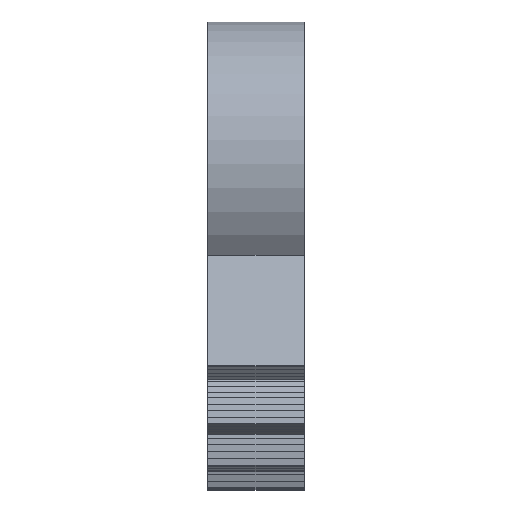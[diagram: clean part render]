
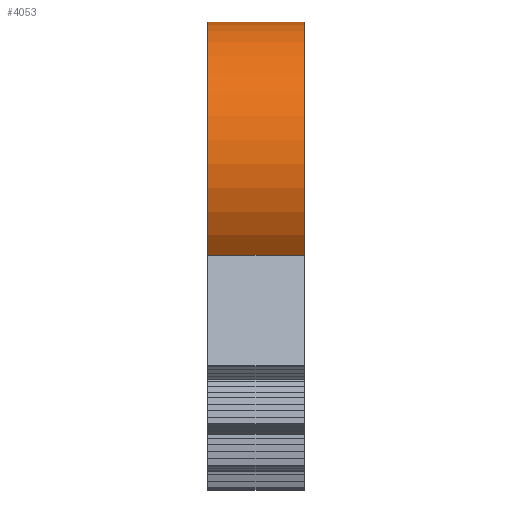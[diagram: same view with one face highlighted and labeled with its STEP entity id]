
A CAD part, top view. The second image highlights one B-rep face of the part: STEP entity #4053.
In plain terms, the highlighted cylindrical face has radius 12 mm (diameter 24 mm), a partial arc.
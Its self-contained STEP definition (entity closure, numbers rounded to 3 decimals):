
#22 = VERTEX_POINT('',#23);
#23 = CARTESIAN_POINT('',(-47.,-7.388,9.456));
#32 = PLANE('',#33);
#33 = AXIS2_PLACEMENT_3D('',#34,#35,#36);
#34 = CARTESIAN_POINT('',(-47.,0.,0.)
  );
#35 = DIRECTION('',(1.,0.,0.));
#36 = DIRECTION('',(0.,1.,0.));
#44 = PLANE('',#45);
#45 = AXIS2_PLACEMENT_3D('',#46,#47,#48);
#46 = CARTESIAN_POINT('',(-47.,0.,0.));
#47 = DIRECTION('',(0.,-0.788,-0.616));
#48 = DIRECTION('',(0.,-0.616,0.788));
#3893 = VERTEX_POINT('',#3894);
#3894 = CARTESIAN_POINT('',(-47.,-10.786,-5.26));
#3908 = PLANE('',#3909);
#3909 = AXIS2_PLACEMENT_3D('',#3910,#3911,#3912);
#3910 = CARTESIAN_POINT('',(-47.,-35.952,-17.535));
#3911 = DIRECTION('',(0.,-0.438,0.899));
#3912 = DIRECTION('',(0.,0.899,0.438));
#3920 = EDGE_CURVE('',#3893,#22,#3921,.T.);
#3921 = SURFACE_CURVE('',#3922,(#3927,#3934),.PCURVE_S1.);
#3922 = CIRCLE('',#3923,12.);
#3923 = AXIS2_PLACEMENT_3D('',#3924,#3925,#3926);
#3924 = CARTESIAN_POINT('',(-47.,0.,0.));
#3925 = DIRECTION('',(1.,0.,0.));
#3926 = DIRECTION('',(0.,-0.899,-0.438));
#3927 = PCURVE('',#32,#3928);
#3928 = DEFINITIONAL_REPRESENTATION('',(#3929),#3933);
#3929 = CIRCLE('',#3930,12.);
#3930 = AXIS2_PLACEMENT_2D('',#3931,#3932);
#3931 = CARTESIAN_POINT('',(0.,0.));
#3932 = DIRECTION('',(-0.899,-0.438));
#3933 = ( GEOMETRIC_REPRESENTATION_CONTEXT(2) 
PARAMETRIC_REPRESENTATION_CONTEXT() REPRESENTATION_CONTEXT('2D SPACE',''
  ) );
#3934 = PCURVE('',#3935,#3940);
#3935 = CYLINDRICAL_SURFACE('',#3936,12.);
#3936 = AXIS2_PLACEMENT_3D('',#3937,#3938,#3939);
#3937 = CARTESIAN_POINT('',(-47.,0.,0.));
#3938 = DIRECTION('',(-1.,-0.,-0.));
#3939 = DIRECTION('',(0.,1.,0.));
#3940 = DEFINITIONAL_REPRESENTATION('',(#3941),#3945);
#3941 = LINE('',#3942,#3943);
#3942 = CARTESIAN_POINT('',(-3.595,0.));
#3943 = VECTOR('',#3944,1.);
#3944 = DIRECTION('',(-1.,0.));
#3945 = ( GEOMETRIC_REPRESENTATION_CONTEXT(2) 
PARAMETRIC_REPRESENTATION_CONTEXT() REPRESENTATION_CONTEXT('2D SPACE',''
  ) );
#3986 = EDGE_CURVE('',#3987,#22,#3989,.T.);
#3987 = VERTEX_POINT('',#3988);
#3988 = CARTESIAN_POINT('',(-39.,-7.388,9.456));
#3989 = SURFACE_CURVE('',#3990,(#3994,#4000),.PCURVE_S1.);
#3990 = LINE('',#3991,#3992);
#3991 = CARTESIAN_POINT('',(-47.,-7.388,9.456));
#3992 = VECTOR('',#3993,1.);
#3993 = DIRECTION('',(-1.,-0.,-0.));
#3994 = PCURVE('',#44,#3995);
#3995 = DEFINITIONAL_REPRESENTATION('',(#3996),#3999);
#3996 = B_SPLINE_CURVE_WITH_KNOTS('',1,(#3997,#3998),.UNSPECIFIED.,.F.,
  .F.,(2,2),(-8.,0.),.PIECEWISE_BEZIER_KNOTS.);
#3997 = CARTESIAN_POINT('',(12.,-8.));
#3998 = CARTESIAN_POINT('',(12.,0.));
#3999 = ( GEOMETRIC_REPRESENTATION_CONTEXT(2) 
PARAMETRIC_REPRESENTATION_CONTEXT() REPRESENTATION_CONTEXT('2D SPACE',''
  ) );
#4000 = PCURVE('',#3935,#4001);
#4001 = DEFINITIONAL_REPRESENTATION('',(#4002),#4005);
#4002 = B_SPLINE_CURVE_WITH_KNOTS('',1,(#4003,#4004),.UNSPECIFIED.,.F.,
  .F.,(2,2),(-8.,-0.),.PIECEWISE_BEZIER_KNOTS.);
#4003 = CARTESIAN_POINT('',(-8.517,-8.));
#4004 = CARTESIAN_POINT('',(-8.517,0.));
#4005 = ( GEOMETRIC_REPRESENTATION_CONTEXT(2) 
PARAMETRIC_REPRESENTATION_CONTEXT() REPRESENTATION_CONTEXT('2D SPACE',''
  ) );
#4023 = PLANE('',#4024);
#4024 = AXIS2_PLACEMENT_3D('',#4025,#4026,#4027);
#4025 = CARTESIAN_POINT('',(-39.,0.,0.
    ));
#4026 = DIRECTION('',(1.,0.,0.));
#4027 = DIRECTION('',(0.,1.,0.));
#4053 = ADVANCED_FACE('',(#4054),#3935,.T.);
#4054 = FACE_BOUND('',#4055,.F.);
#4055 = EDGE_LOOP('',(#4056,#4057,#4078,#4104));
#4056 = ORIENTED_EDGE('',*,*,#3920,.F.);
#4057 = ORIENTED_EDGE('',*,*,#4058,.F.);
#4058 = EDGE_CURVE('',#4059,#3893,#4061,.T.);
#4059 = VERTEX_POINT('',#4060);
#4060 = CARTESIAN_POINT('',(-39.,-10.786,-5.26));
#4061 = SURFACE_CURVE('',#4062,(#4066,#4072),.PCURVE_S1.);
#4062 = LINE('',#4063,#4064);
#4063 = CARTESIAN_POINT('',(-47.,-10.786,-5.26));
#4064 = VECTOR('',#4065,1.);
#4065 = DIRECTION('',(-1.,-0.,-0.));
#4066 = PCURVE('',#3935,#4067);
#4067 = DEFINITIONAL_REPRESENTATION('',(#4068),#4071);
#4068 = B_SPLINE_CURVE_WITH_KNOTS('',1,(#4069,#4070),.UNSPECIFIED.,.F.,
  .F.,(2,2),(-8.,0.),.PIECEWISE_BEZIER_KNOTS.);
#4069 = CARTESIAN_POINT('',(-3.595,-8.));
#4070 = CARTESIAN_POINT('',(-3.595,0.));
#4071 = ( GEOMETRIC_REPRESENTATION_CONTEXT(2) 
PARAMETRIC_REPRESENTATION_CONTEXT() REPRESENTATION_CONTEXT('2D SPACE',''
  ) );
#4072 = PCURVE('',#3908,#4073);
#4073 = DEFINITIONAL_REPRESENTATION('',(#4074),#4077);
#4074 = B_SPLINE_CURVE_WITH_KNOTS('',1,(#4075,#4076),.UNSPECIFIED.,.F.,
  .F.,(2,2),(-8.,0.),.PIECEWISE_BEZIER_KNOTS.);
#4075 = CARTESIAN_POINT('',(28.,-8.));
#4076 = CARTESIAN_POINT('',(28.,0.));
#4077 = ( GEOMETRIC_REPRESENTATION_CONTEXT(2) 
PARAMETRIC_REPRESENTATION_CONTEXT() REPRESENTATION_CONTEXT('2D SPACE',''
  ) );
#4078 = ORIENTED_EDGE('',*,*,#4079,.F.);
#4079 = EDGE_CURVE('',#3987,#4059,#4080,.T.);
#4080 = SURFACE_CURVE('',#4081,(#4086,#4093),.PCURVE_S1.);
#4081 = CIRCLE('',#4082,12.);
#4082 = AXIS2_PLACEMENT_3D('',#4083,#4084,#4085);
#4083 = CARTESIAN_POINT('',(-39.,0.,0.));
#4084 = DIRECTION('',(-1.,0.,0.));
#4085 = DIRECTION('',(0.,-0.616,0.788));
#4086 = PCURVE('',#3935,#4087);
#4087 = DEFINITIONAL_REPRESENTATION('',(#4088),#4092);
#4088 = LINE('',#4089,#4090);
#4089 = CARTESIAN_POINT('',(-8.517,-8.));
#4090 = VECTOR('',#4091,1.);
#4091 = DIRECTION('',(1.,-0.));
#4092 = ( GEOMETRIC_REPRESENTATION_CONTEXT(2) 
PARAMETRIC_REPRESENTATION_CONTEXT() REPRESENTATION_CONTEXT('2D SPACE',''
  ) );
#4093 = PCURVE('',#4023,#4094);
#4094 = DEFINITIONAL_REPRESENTATION('',(#4095),#4103);
#4095 = ( BOUNDED_CURVE() B_SPLINE_CURVE(2,(#4096,#4097,#4098,#4099,
#4100,#4101,#4102),.UNSPECIFIED.,.T.,.F.) B_SPLINE_CURVE_WITH_KNOTS((1,2
    ,2,2,2,1),(-2.094,0.,2.094,4.189,
6.283,8.378),.UNSPECIFIED.) CURVE() 
GEOMETRIC_REPRESENTATION_ITEM() RATIONAL_B_SPLINE_CURVE((1.,0.5,1.,0.5,
1.,0.5,1.)) REPRESENTATION_ITEM('') );
#4096 = CARTESIAN_POINT('',(-7.388,9.456));
#4097 = CARTESIAN_POINT('',(8.991,22.252));
#4098 = CARTESIAN_POINT('',(11.883,1.67));
#4099 = CARTESIAN_POINT('',(14.776,-18.912));
#4100 = CARTESIAN_POINT('',(-4.495,-11.126));
#4101 = CARTESIAN_POINT('',(-23.766,-3.34));
#4102 = CARTESIAN_POINT('',(-7.388,9.456));
#4103 = ( GEOMETRIC_REPRESENTATION_CONTEXT(2) 
PARAMETRIC_REPRESENTATION_CONTEXT() REPRESENTATION_CONTEXT('2D SPACE',''
  ) );
#4104 = ORIENTED_EDGE('',*,*,#3986,.T.);
